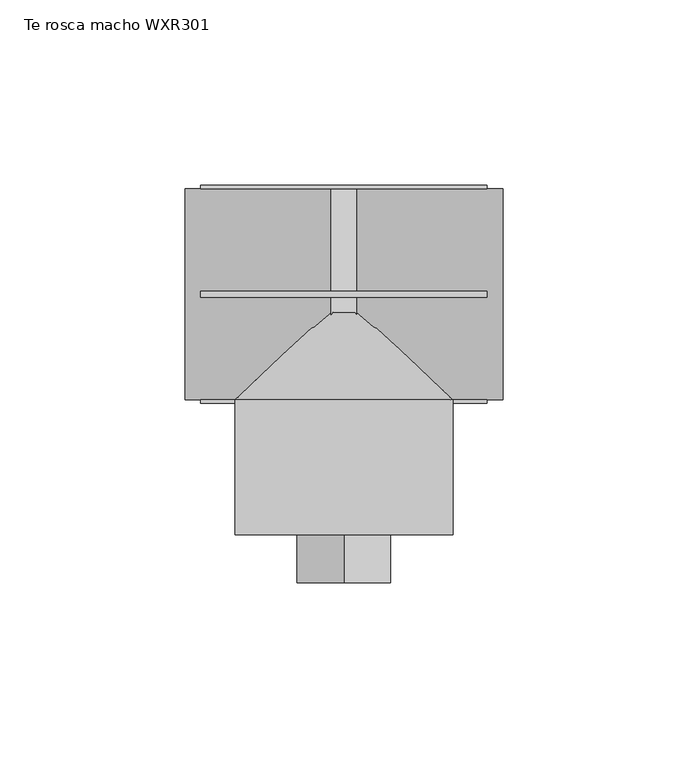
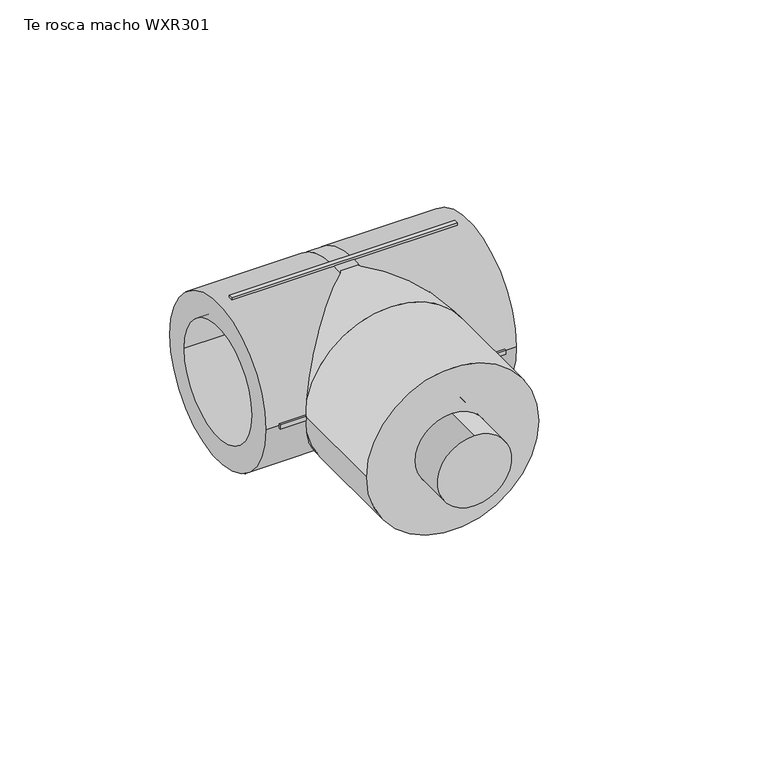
"""IFC4 building model written with IfcOpenShell, lengths in millimetres: pipe fitting geometry, EGB_VASEN_ PPR_Te rosca macho WXR301 : Te rosca macho WXR301."""

from ifc_helpers import new_model, si_unit, point, frame, origin, origin_2d, place, context, project, spatial, polyline, circle_curve, trimmed, segment, composite_curve, outline, extrude, source, transform, mapped, element, save
from ifc_brep_helpers import plane_surface, cylinder_surface, revolved_surface, advanced_brep


def te_rosca_macho_wxr301_79b6a5fc(model_context):
    return source(origin(), model_context, "Body", "SolidModel", [
        extrude(outline(composite_curve([segment(trimmed(circle_curve(origin_2d(), 12.7), [point((-12.7, 0.0))], [point((12.7, 0.0))], False, "CARTESIAN"), True, "CONTINUOUS"), segment(trimmed(circle_curve(origin_2d(), 12.7), [point((12.7, 0.0))], [point((-12.7, 0.0))], False, "CARTESIAN"), True, "CONTINUOUS")], self_intersect=False)), frame((0.0, -78.0, 0.0), z_axis=(0.0, 1.0, 0.0), x_axis=(0.0, 0.0, 1.0)), (0.0, 0.0, 1.0), 48.5),
        advanced_brep(
        [(3.44, -20.0, 0.0), (3.44, 20.0, 0.0), (-3.44, 20.0, 0.0), (-3.44, -20.0, 0.0), (-3.44, 28.5, 0.0), (3.44, 28.5, 0.0), (3.44, -28.5, 0.0), (-3.44, -28.5, 0.0), (43.0, -28.5, 0.0), (43.0, 28.5, 0.0), (43.0, -20.0, 0.0), (43.0, 20.0, 0.0), (-43.0, -28.5, 0.0), (-43.0, 28.5, 0.0), (-43.0, -20.0, 0.0), (-43.0, 20.0, 0.0)],
        [
            (0, 1, circle_curve(frame((3.44, 0.0, 0.0), z_axis=(1.0, 0.0, 0.0), x_axis=(0.0, 1.0, 0.0)), 20.0)),
            (1, 0, circle_curve(frame((3.44, 0.0, 0.0), z_axis=(1.0, 0.0, 0.0), x_axis=(0.0, 1.0, 0.0)), 20.0)),
            (2, 3, circle_curve(frame((-3.44, 0.0, 0.0), z_axis=(-1.0, 0.0, 0.0), x_axis=(0.0, 1.0, 0.0)), 20.0)),
            (3, 2, circle_curve(frame((-3.44, 0.0, 0.0), z_axis=(-1.0, 0.0, 0.0), x_axis=(0.0, 1.0, 0.0)), 20.0)),
            (4, 5),
            (5, 6, circle_curve(frame((3.44, 0.0, 0.0), z_axis=(-1.0, 0.0, 0.0), x_axis=(0.0, 0.0, -1.0)), 28.5)),
            (6, 7),
            (7, 4, circle_curve(frame((-3.44, 0.0, 0.0), z_axis=(1.0, 0.0, 0.0), x_axis=(0.0, 0.0, -1.0)), 28.5)),
            (4, 7, circle_curve(frame((-3.44, 0.0, 0.0), z_axis=(1.0, 0.0, 0.0), x_axis=(0.0, 0.0, 1.0)), 28.5)),
            (6, 5, circle_curve(frame((3.44, 0.0, 0.0), z_axis=(-1.0, 0.0, 0.0), x_axis=(0.0, 0.0, 1.0)), 28.5)),
            (8, 9, circle_curve(frame((43.0, 0.0, 0.0), z_axis=(1.0, 0.0, 0.0), x_axis=(0.0, 1.0, 0.0)), 28.5)),
            (9, 8, circle_curve(frame((43.0, 0.0, 0.0), z_axis=(1.0, 0.0, 0.0), x_axis=(0.0, 1.0, 0.0)), 28.5)),
            (10, 11, circle_curve(frame((43.0, 0.0, 0.0), z_axis=(-1.0, 0.0, 0.0), x_axis=(0.0, 1.0, 0.0)), 20.0)),
            (11, 10, circle_curve(frame((43.0, 0.0, 0.0), z_axis=(-1.0, 0.0, 0.0), x_axis=(0.0, 1.0, 0.0)), 20.0)),
            (9, 5),
            (6, 8),
            (11, 1),
            (0, 10),
            (12, 13, circle_curve(frame((-43.0, 0.0, 0.0), z_axis=(-1.0, 0.0, 0.0), x_axis=(0.0, 1.0, 0.0)), 28.5)),
            (13, 12, circle_curve(frame((-43.0, 0.0, 0.0), z_axis=(-1.0, 0.0, 0.0), x_axis=(0.0, 1.0, 0.0)), 28.5)),
            (14, 15, circle_curve(frame((-43.0, 0.0, 0.0), z_axis=(1.0, 0.0, 0.0), x_axis=(0.0, 1.0, 0.0)), 20.0)),
            (15, 14, circle_curve(frame((-43.0, 0.0, 0.0), z_axis=(1.0, 0.0, 0.0), x_axis=(0.0, 1.0, 0.0)), 20.0)),
            (12, 7),
            (4, 13),
            (14, 3),
            (2, 15),
        ],
        [
            plane_surface(frame((3.44, 0.0, 0.0), z_axis=(1.0, 0.0, 0.0), x_axis=(0.0, 0.0, -1.0))),
            plane_surface(frame((-3.44, 0.0, 0.0), z_axis=(-1.0, 0.0, 0.0), x_axis=(0.0, 0.0, -1.0))),
            cylinder_surface(frame((-3.44, 0.0, 0.0), z_axis=(1.0, 0.0, 0.0), x_axis=(0.0, 0.0, -1.0)), 28.5),
            cylinder_surface(frame((-3.44, 0.0, 0.0), z_axis=(1.0, 0.0, 0.0), x_axis=(0.0, 0.0, 1.0)), 28.5),
            plane_surface(frame((43.0, 0.0, 0.0), z_axis=(1.0, 0.0, 0.0), x_axis=(0.0, 0.0, 1.0))),
            cylinder_surface(frame((3.44, 0.0, 0.0), z_axis=(-1.0, 0.0, 0.0), x_axis=(0.0, 1.0, 0.0)), 28.5),
            revolved_surface(polyline([(43.0, 20.0, 0.0), (3.44, 20.0, 0.0)]), (3.44, 0.0, 0.0), (1.0, 0.0, 0.0)),
            plane_surface(frame((-43.0, 0.0, 0.0), z_axis=(-1.0, 0.0, 0.0), x_axis=(0.0, 0.0, 1.0))),
            cylinder_surface(frame((-43.0, 0.0, 0.0), z_axis=(-1.0, 0.0, 0.0), x_axis=(0.0, 1.0, 0.0)), 28.5),
            revolved_surface(polyline([(-3.4399999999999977, 20.0, 0.0), (-43.0, 20.0, 0.0)]), (-43.0, 0.0, 0.0), (1.0, 0.0, 0.0)),
        ],
        [
            (0, [[1, 2]]),
            (1, [[3, 4]]),
            (2, [[5, 6, 7, 8]]),
            (3, [[-5, 9, -7, 10]]),
            (4, [[11, 12], [13, 14]]),
            (5, [[-12, 15, -10, 16]]),
            (5, [[-11, -16, -6, -15]]),
            (6, [[-14, 17, -1, 18]]),
            (6, [[-13, -18, -2, -17]]),
            (7, [[19, 20], [21, 22]]),
            (8, [[-19, 23, -9, 24]]),
            (8, [[-20, -24, -8, -23]]),
            (9, [[-21, 25, -3, 26]]),
            (9, [[-22, -26, -4, -25]]),
        ],
    ),
        extrude(outline(composite_curve([segment(trimmed(circle_curve(origin_2d(), 29.5), [point((0.0, 29.5))], [point((0.0, -29.5))], False, "CARTESIAN"), True, "CONTINUOUS"), segment(trimmed(circle_curve(origin_2d(), 29.5), [point((0.0, -29.5))], [point((0.0, 29.5))], False, "CARTESIAN"), True, "CONTINUOUS")], self_intersect=False), holes=[composite_curve([segment(trimmed(circle_curve(origin_2d(), 12.7), [point((0.0, 12.7))], [point((0.0, -12.7))], True, "CARTESIAN"), True, "CONTINUOUS"), segment(trimmed(circle_curve(origin_2d(), 12.7), [point((0.0, -12.7))], [point((0.0, 12.7))], True, "CARTESIAN"), True, "CONTINUOUS")], self_intersect=False)]), frame((0.0, -65.0, 0.0), z_axis=(0.0, 1.0, 0.0), x_axis=(0.0, 0.0, 1.0)), (0.0, 0.0, 1.0), 36.5),
        advanced_brep(
        [(28.5, 0.0, 0.0), (-28.5, 0.0, 0.0), (29.5, -28.5, 0.0), (-29.5, -28.5, 0.0)],
        [
            (0, 1, circle_curve(frame((0.0, 0.0, 0.0), z_axis=(0.0, 1.0, 0.0), x_axis=(1.0, 0.0, 0.0)), 28.5)),
            (1, 0, circle_curve(frame((0.0, 0.0, 0.0), z_axis=(0.0, 1.0, 0.0), x_axis=(-1.0, 0.0, 0.0)), 28.5)),
            (2, 3, circle_curve(frame((0.0, -28.5, 0.0), z_axis=(0.0, -1.0, 0.0), x_axis=(-1.0, 0.0, 0.0)), 29.5)),
            (3, 2, circle_curve(frame((0.0, -28.5, 0.0), z_axis=(0.0, -1.0, 0.0), x_axis=(1.0, 0.0, 0.0)), 29.5)),
            (3, 1),
            (0, 2),
        ],
        [
            plane_surface(frame((0.0, 0.0, 0.0), z_axis=(0.0, 1.0, 0.0), x_axis=(0.0, 0.0, -1.0))),
            plane_surface(frame((0.0, -28.5, 0.0), z_axis=(0.0, -1.0, 0.0), x_axis=(0.0, 0.0, -1.0))),
            revolved_surface(polyline([(28.5, 0.0, 0.0), (29.5, -28.5, 0.0)]), (0.0, 812.25, 0.0), (0.0, -1.0, 0.0)),
            revolved_surface(polyline([(-28.5, 0.0, 0.0), (-29.5, -28.5, 0.0)]), (0.0, 812.25, 0.0), (0.0, -1.0, 0.0)),
        ],
        [
            (0, [[1, 2]]),
            (1, [[3, 4]]),
            (2, [[-4, 5, -1, 6]]),
            (3, [[-3, -6, -2, -5]]),
        ],
    ),
        extrude(outline(polyline([(38.7, 0.75), (38.7, -0.75), (-38.7, -0.75), (-38.7, 0.75), (38.7, 0.75)])), frame((0.0, 0.0, 27.5), z_axis=(0.0, 0.0, 1.0), x_axis=(1.0, 0.0, 0.0)), (0.0, 0.0, 1.0), 2.0),
        extrude(outline(polyline([(38.7, 0.75), (38.7, -0.75), (-38.7, -0.75), (-38.7, 0.75), (38.7, 0.75)])), frame((0.0, 0.0, -29.5), z_axis=(0.0, 0.0, 1.0), x_axis=(1.0, 0.0, 0.0)), (0.0, 0.0, 1.0), 2.0),
        extrude(outline(polyline([(38.7, 29.5), (38.7, 27.5), (-38.7, 27.5), (-38.7, 29.5), (38.7, 29.5)])), frame((0.0, 0.0, -0.75), z_axis=(0.0, 0.0, 1.0), x_axis=(1.0, 0.0, 0.0)), (0.0, 0.0, 1.0), 1.5),
        extrude(outline(polyline([(38.7, -27.5), (38.7, -29.5), (-38.7, -29.5), (-38.7, -27.5), (38.7, -27.5)])), frame((0.0, 0.0, -0.75), z_axis=(0.0, 0.0, 1.0), x_axis=(1.0, 0.0, 0.0)), (0.0, 0.0, 1.0), 1.5),
    ])


if __name__ == "__main__":
    model = new_model("IFC4")
    model_context = context("Model", 3, world=origin())
    ifc_project = project(units=[si_unit("LENGTHUNIT", "METRE", prefix="MILLI")], contexts=[model_context])
    site = spatial("IfcSite", under=ifc_project)
    building = spatial("IfcBuilding", under=site)
    placement = place(None, origin())
    te_rosca_macho_wxr301_shape = te_rosca_macho_wxr301_79b6a5fc(model_context)
    element("IfcPipeFitting", 1, ObjectType="EGB_VASEN_ PPR_Te rosca macho WXR301 : Te rosca macho WXR301", at=placement, inside=building, context=model_context, shape_type="MappedRepresentation", body=[
        mapped(te_rosca_macho_wxr301_shape, transform((0.0, 0.0, 0.0), x_axis=(1.0, 0.0, 0.0), y_axis=(0.0, 1.0, 0.0), z_axis=(0.0, 0.0, 1.0))),
    ])
    save(model, "model.ifc")
